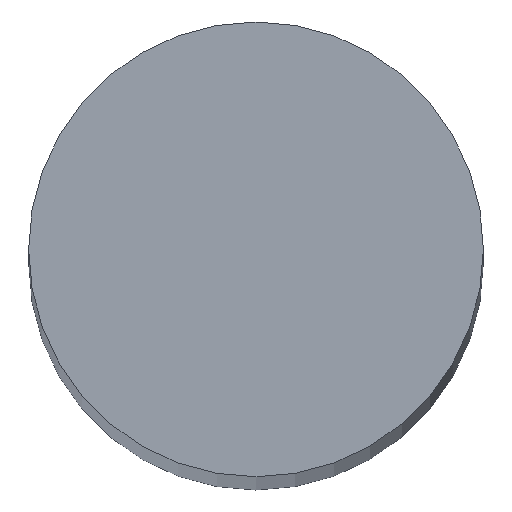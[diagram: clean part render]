
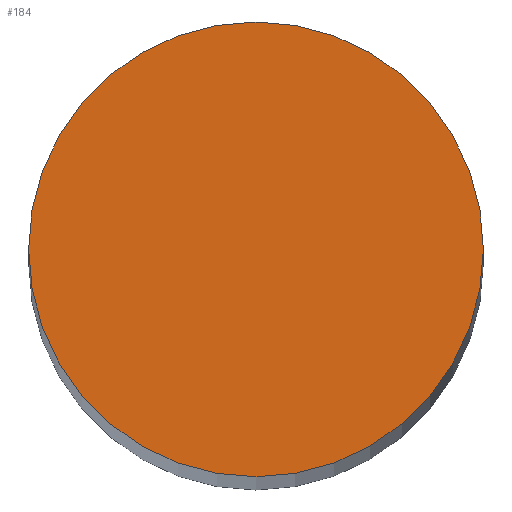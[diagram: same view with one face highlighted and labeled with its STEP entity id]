
A CAD part, top view. The second image highlights one B-rep face of the part: STEP entity #184.
In plain terms, the highlighted planar face has unit normal (0, 0, 1).
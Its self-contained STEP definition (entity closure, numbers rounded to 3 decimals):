
#5 = ORIENTED_EDGE ( 'NONE', *, *, #204, .T. ) ;
#25 = CARTESIAN_POINT ( 'NONE',  ( 0., 0., 200. ) ) ;
#51 = CARTESIAN_POINT ( 'NONE',  ( 6., 0., 200. ) ) ;
#76 = PLANE ( 'NONE',  #251 ) ;
#116 = EDGE_LOOP ( 'NONE', ( #5 ) ) ;
#158 = DIRECTION ( 'NONE',  ( 1., 0., 0. ) ) ;
#160 = DIRECTION ( 'NONE',  ( 1., 0., 0. ) ) ;
#177 = FACE_OUTER_BOUND ( 'NONE', #116, .T. ) ;
#181 = DIRECTION ( 'NONE',  ( 0., 0., 1. ) ) ;
#184 = ADVANCED_FACE ( 'NONE', ( #177 ), #76, .T. ) ;
#204 = EDGE_CURVE ( 'NONE', #271, #271, #335, .T. ) ;
#251 = AXIS2_PLACEMENT_3D ( 'NONE', #257, #291, #160 ) ;
#257 = CARTESIAN_POINT ( 'NONE',  ( 0., 0., 200. ) ) ;
#270 = AXIS2_PLACEMENT_3D ( 'NONE', #25, #181, #158 ) ;
#271 = VERTEX_POINT ( 'NONE', #51 ) ;
#291 = DIRECTION ( 'NONE',  ( 0., 0., 1. ) ) ;
#335 = CIRCLE ( 'NONE', #270, 6. ) ;
